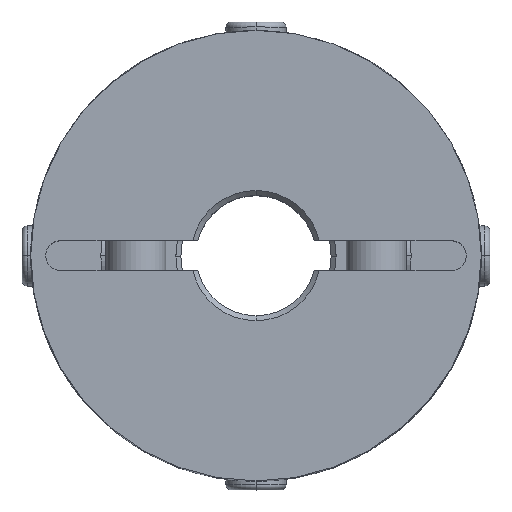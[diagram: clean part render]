
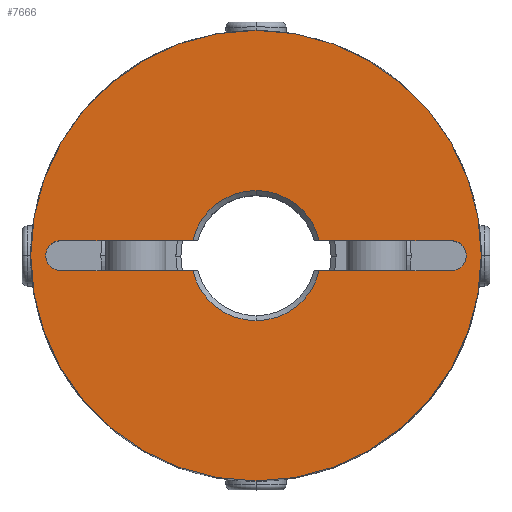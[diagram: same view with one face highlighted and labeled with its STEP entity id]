
A CAD part, top view. The second image highlights one B-rep face of the part: STEP entity #7666.
In plain terms, the highlighted planar face has unit normal (0, 0, 1).
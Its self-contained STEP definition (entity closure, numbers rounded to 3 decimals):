
#979=CARTESIAN_POINT('',(0.,22.5,22.5));
#980=VERTEX_POINT('',#979);
#987=CARTESIAN_POINT('',(0.,-22.5,22.5));
#988=VERTEX_POINT('',#987);
#989=CARTESIAN_POINT('',(0.0,0.0,22.5));
#990=DIRECTION('',(0.0,0.0,-1.0));
#991=DIRECTION('',(0.0,-1.0,0.0));
#992=AXIS2_PLACEMENT_3D('',#989,#990,#991);
#993=CIRCLE('',#992,22.5);
#994=EDGE_CURVE('',#980,#988,#993,.T.);
#1309=CARTESIAN_POINT('',(20.561,1.061,22.5));
#1310=VERTEX_POINT('',#1309);
#1326=CARTESIAN_POINT('',(19.5,-1.5,22.5));
#1327=VERTEX_POINT('',#1326);
#1334=CARTESIAN_POINT('',(19.5,0.,22.5));
#1335=DIRECTION('',(0.0,0.0,1.0));
#1336=DIRECTION('',(0.707,-0.707,0.0));
#1337=AXIS2_PLACEMENT_3D('',#1334,#1335,#1336);
#1338=CIRCLE('',#1337,1.5);
#1339=EDGE_CURVE('',#1327,#1310,#1338,.T.);
#1351=CARTESIAN_POINT('',(-20.561,-1.061,22.5));
#1352=VERTEX_POINT('',#1351);
#1368=CARTESIAN_POINT('',(-19.5,1.5,22.5));
#1369=VERTEX_POINT('',#1368);
#1376=CARTESIAN_POINT('',(-19.5,0.,22.5));
#1377=DIRECTION('',(0.0,0.0,1.0));
#1378=DIRECTION('',(-0.707,0.707,0.0));
#1379=AXIS2_PLACEMENT_3D('',#1376,#1377,#1378);
#1380=CIRCLE('',#1379,1.5);
#1381=EDGE_CURVE('',#1369,#1352,#1380,.T.);
#2105=CARTESIAN_POINT('',(0.,6.5,22.5));
#2106=VERTEX_POINT('',#2105);
#2114=CARTESIAN_POINT('',(6.325,1.5,22.5));
#2115=VERTEX_POINT('',#2114);
#2129=CARTESIAN_POINT('',(0.0,0.0,22.5));
#2130=DIRECTION('',(0.0,0.0,1.0));
#2131=DIRECTION('',(0.0,1.0,0.0));
#2132=AXIS2_PLACEMENT_3D('',#2129,#2130,#2131);
#2133=CIRCLE('',#2132,6.5);
#2134=EDGE_CURVE('',#2115,#2106,#2133,.T.);
#2144=CARTESIAN_POINT('',(0.,-6.5,22.5));
#2145=VERTEX_POINT('',#2144);
#2161=CARTESIAN_POINT('',(-6.325,-1.5,22.5));
#2162=VERTEX_POINT('',#2161);
#2176=CARTESIAN_POINT('',(0.0,0.0,22.5));
#2177=DIRECTION('',(0.0,0.0,1.0));
#2178=DIRECTION('',(0.0,-1.0,0.0));
#2179=AXIS2_PLACEMENT_3D('',#2176,#2177,#2178);
#2180=CIRCLE('',#2179,6.5);
#2181=EDGE_CURVE('',#2162,#2145,#2180,.T.);
#7404=CARTESIAN_POINT('',(19.5,1.5,22.5));
#7405=VERTEX_POINT('',#7404);
#7412=CARTESIAN_POINT('',(6.325,1.5,22.5));
#7413=DIRECTION('',(1.0,0.0,0.0));
#7414=VECTOR('',#7413,13.175);
#7415=LINE('',#7412,#7414);
#7416=EDGE_CURVE('',#2115,#7405,#7415,.T.);
#7551=CARTESIAN_POINT('',(6.325,-1.5,22.5));
#7552=VERTEX_POINT('',#7551);
#7566=CARTESIAN_POINT('',(19.5,-1.5,22.5));
#7567=DIRECTION('',(-1.0,0.0,0.0));
#7568=VECTOR('',#7567,13.175);
#7569=LINE('',#7566,#7568);
#7570=EDGE_CURVE('',#1327,#7552,#7569,.T.);
#7593=CARTESIAN_POINT('',(0.0,0.0,22.5));
#7594=DIRECTION('',(0.0,0.0,1.0));
#7595=DIRECTION('',(0.0,-1.0,0.0));
#7596=AXIS2_PLACEMENT_3D('',#7593,#7594,#7595);
#7597=CIRCLE('',#7596,6.5);
#7598=EDGE_CURVE('',#2145,#7552,#7597,.T.);
#7605=CARTESIAN_POINT('',(0.,-2.045,22.5));
#7606=DIRECTION('',(0.0,0.0,1.0));
#7607=DIRECTION('',(0.0,-1.0,0.0));
#7608=AXIS2_PLACEMENT_3D('',#7605,#7606,#7607);
#7609=PLANE('',#7608);
#7610=CARTESIAN_POINT('',(0.0,0.0,22.5));
#7611=DIRECTION('',(0.0,0.0,-1.0));
#7612=DIRECTION('',(0.0,-1.0,0.0));
#7613=AXIS2_PLACEMENT_3D('',#7610,#7611,#7612);
#7614=CIRCLE('',#7613,22.5);
#7615=EDGE_CURVE('',#988,#980,#7614,.T.);
#7616=ORIENTED_EDGE('',*,*,#7615,.F.);
#7617=ORIENTED_EDGE('',*,*,#994,.F.);
#7618=EDGE_LOOP('',(#7616,#7617));
#7619=FACE_OUTER_BOUND('',#7618,.T.);
#7620=ORIENTED_EDGE('',*,*,#2181,.F.);
#7621=CARTESIAN_POINT('',(-19.5,-1.5,22.5));
#7622=VERTEX_POINT('',#7621);
#7623=CARTESIAN_POINT('',(-6.325,-1.5,22.5));
#7624=DIRECTION('',(-1.0,0.0,0.0));
#7625=VECTOR('',#7624,13.175);
#7626=LINE('',#7623,#7625);
#7627=EDGE_CURVE('',#2162,#7622,#7626,.T.);
#7628=ORIENTED_EDGE('',*,*,#7627,.T.);
#7629=CARTESIAN_POINT('',(-19.5,0.,22.5));
#7630=DIRECTION('',(0.0,0.0,1.0));
#7631=DIRECTION('',(-0.707,0.707,0.0));
#7632=AXIS2_PLACEMENT_3D('',#7629,#7630,#7631);
#7633=CIRCLE('',#7632,1.5);
#7634=EDGE_CURVE('',#1352,#7622,#7633,.T.);
#7635=ORIENTED_EDGE('',*,*,#7634,.F.);
#7636=ORIENTED_EDGE('',*,*,#1381,.F.);
#7637=CARTESIAN_POINT('',(-6.325,1.5,22.5));
#7638=VERTEX_POINT('',#7637);
#7639=CARTESIAN_POINT('',(-19.5,1.5,22.5));
#7640=DIRECTION('',(1.0,0.0,0.0));
#7641=VECTOR('',#7640,13.175);
#7642=LINE('',#7639,#7641);
#7643=EDGE_CURVE('',#1369,#7638,#7642,.T.);
#7644=ORIENTED_EDGE('',*,*,#7643,.T.);
#7645=CARTESIAN_POINT('',(0.0,0.0,22.5));
#7646=DIRECTION('',(0.0,0.0,1.0));
#7647=DIRECTION('',(0.0,1.0,0.0));
#7648=AXIS2_PLACEMENT_3D('',#7645,#7646,#7647);
#7649=CIRCLE('',#7648,6.5);
#7650=EDGE_CURVE('',#2106,#7638,#7649,.T.);
#7651=ORIENTED_EDGE('',*,*,#7650,.F.);
#7652=ORIENTED_EDGE('',*,*,#2134,.F.);
#7653=ORIENTED_EDGE('',*,*,#7416,.T.);
#7654=CARTESIAN_POINT('',(19.5,0.,22.5));
#7655=DIRECTION('',(0.0,0.0,1.0));
#7656=DIRECTION('',(0.707,-0.707,0.0));
#7657=AXIS2_PLACEMENT_3D('',#7654,#7655,#7656);
#7658=CIRCLE('',#7657,1.5);
#7659=EDGE_CURVE('',#1310,#7405,#7658,.T.);
#7660=ORIENTED_EDGE('',*,*,#7659,.F.);
#7661=ORIENTED_EDGE('',*,*,#1339,.F.);
#7662=ORIENTED_EDGE('',*,*,#7570,.T.);
#7663=ORIENTED_EDGE('',*,*,#7598,.F.);
#7664=EDGE_LOOP('',(#7620,#7628,#7635,#7636,#7644,#7651,#7652,#7653,#7660,#7661,#7662,#7663));
#7665=FACE_BOUND('',#7664,.T.);
#7666=ADVANCED_FACE('',(#7619,#7665),#7609,.T.);
